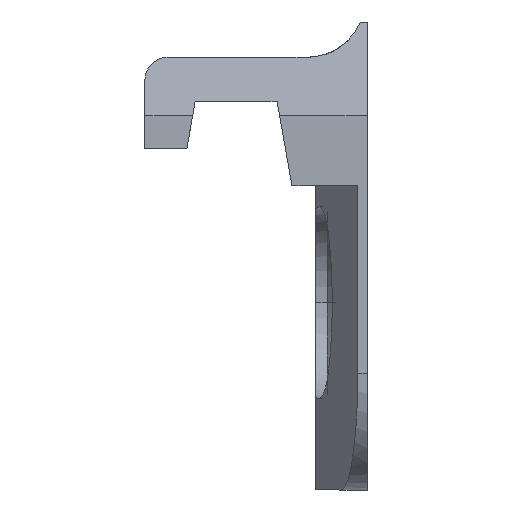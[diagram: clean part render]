
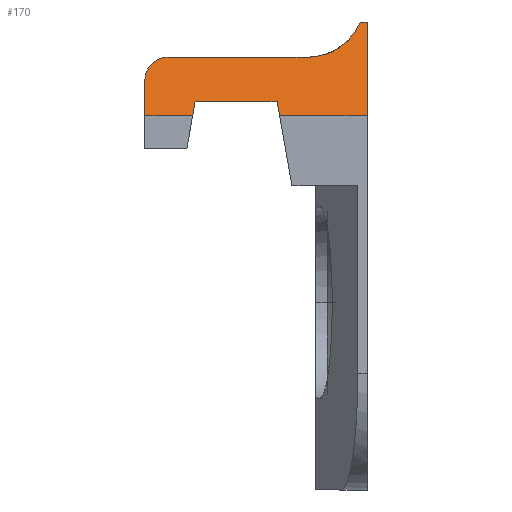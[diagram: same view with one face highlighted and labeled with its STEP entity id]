
A CAD part, front view. The second image highlights one B-rep face of the part: STEP entity #170.
In plain terms, the highlighted planar face has unit normal (0, -0.574, 0.819).
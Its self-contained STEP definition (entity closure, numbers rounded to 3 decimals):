
#170 = ADVANCED_FACE ( 'NONE', ( #1354 ), #579, .F. ) ;
#254 = EDGE_CURVE ( 'NONE', #2186, #2180, #1235, .T. ) ;
#260 = EDGE_CURVE ( 'NONE', #2168, #2178, #1238, .T. ) ;
#264 = EDGE_CURVE ( 'NONE', #2178, #2176, #1232, .T. ) ;
#266 = EDGE_CURVE ( 'NONE', #2180, #2174, #1230, .T. ) ;
#269 = EDGE_CURVE ( 'NONE', #2174, #2172, #2109, .T. ) ;
#272 = EDGE_CURVE ( 'NONE', #2172, #2170, #1203, .T. ) ;
#275 = EDGE_CURVE ( 'NONE', #2170, #2168, #2108, .T. ) ;
#278 = EDGE_CURVE ( 'NONE', #2162, #2159, #1189, .T. ) ;
#280 = EDGE_CURVE ( 'NONE', #2176, #2164, #1182, .T. ) ;
#286 = EDGE_CURVE ( 'NONE', #2164, #2162, #1193, .T. ) ;
#302 = EDGE_CURVE ( 'NONE', #2159, #2186, #1145, .T. ) ;
#434 = AXIS2_PLACEMENT_3D ( 'NONE', #578, #581, #582 ) ;
#578 = CARTESIAN_POINT ( 'NONE',  ( -8.5, -31.5, 8. ) ) ;
#579 = PLANE ( 'NONE',  #434 ) ;
#581 = DIRECTION ( 'NONE',  ( 0., 0.574, -0.819 ) ) ;
#582 = DIRECTION ( 'NONE',  ( 0., 0.819, 0.574 ) ) ;
#753 = CARTESIAN_POINT ( 'NONE',  ( 0., 213.285, 179.4 ) ) ;
#754 = DIRECTION ( 'NONE',  ( 0., 0.819, 0.574 ) ) ;
#769 = CARTESIAN_POINT ( 'NONE',  ( -9.5, 210.748, 177.624 ) ) ;
#770 = DIRECTION ( 'NONE',  ( 0., -0.819, -0.574 ) ) ;
#775 = CARTESIAN_POINT ( 'NONE',  ( -8.5, -31.5, 8. ) ) ;
#777 = CARTESIAN_POINT ( 'NONE',  ( -0.3, -25.787, 12. ) ) ;
#778 = DIRECTION ( 'NONE',  ( 1., 0., 0. ) ) ;
#782 = DIRECTION ( 'NONE',  ( -1., 0., 0. ) ) ;
#785 = CARTESIAN_POINT ( 'NONE',  ( -0.3, -25.787, 12. ) ) ;
#788 = CARTESIAN_POINT ( 'NONE',  ( -8.5, -27.93, 10.5 ) ) ;
#789 = CARTESIAN_POINT ( 'NONE',  ( -0.679, -27.124, 11.064 ) ) ;
#790 = CARTESIAN_POINT ( 'NONE',  ( -1.515, -27.93, 10.5 ) ) ;
#791 = CARTESIAN_POINT ( 'NONE',  ( -2.525, -27.93, 10.5 ) ) ;
#797 = DIRECTION ( 'NONE',  ( -1., 0., 0. ) ) ;
#800 = CARTESIAN_POINT ( 'NONE',  ( -8.5, -27.93, 10.5 ) ) ;
#803 = CARTESIAN_POINT ( 'NONE',  ( -3.85, -30.643, 8.6 ) ) ;
#804 = CARTESIAN_POINT ( 'NONE',  ( -9.086, -27.93, 10.5 ) ) ;
#805 = CARTESIAN_POINT ( 'NONE',  ( -9.5, -28.521, 10.086 ) ) ;
#806 = CARTESIAN_POINT ( 'NONE',  ( -9.5, -29.358, 9.5 ) ) ;
#811 = CARTESIAN_POINT ( 'NONE',  ( -33.253, 207.508, 175.355 ) ) ;
#812 = DIRECTION ( 'NONE',  ( 0.101, -0.815, -0.571 ) ) ;
#815 = CARTESIAN_POINT ( 'NONE',  ( 22.267, 209.234, 176.564 ) ) ;
#816 = DIRECTION ( 'NONE',  ( 0.101, 0.815, 0.571 ) ) ;
#828 = DIRECTION ( 'NONE',  ( 1., 0., 0. ) ) ;
#853 = CARTESIAN_POINT ( 'NONE',  ( -8.5, -31.5, 8. ) ) ;
#865 = DIRECTION ( 'NONE',  ( 1., 0., 0. ) ) ;
#922 = CARTESIAN_POINT ( 'NONE',  ( -7.35, -30.643, 8.6 ) ) ;
#927 = CARTESIAN_POINT ( 'NONE',  ( -3.744, -31.5, 8. ) ) ;
#935 = CARTESIAN_POINT ( 'NONE',  ( -3.85, -30.643, 8.6 ) ) ;
#940 = CARTESIAN_POINT ( 'NONE',  ( -9.5, -29.358, 9.5 ) ) ;
#942 = CARTESIAN_POINT ( 'NONE',  ( -8.5, -27.93, 10.5 ) ) ;
#944 = CARTESIAN_POINT ( 'NONE',  ( -2.525, -27.93, 10.5 ) ) ;
#946 = CARTESIAN_POINT ( 'NONE',  ( -0.3, -25.787, 12. ) ) ;
#948 = CARTESIAN_POINT ( 'NONE',  ( -7.456, -31.5, 8. ) ) ;
#950 = CARTESIAN_POINT ( 'NONE',  ( -9.5, -31.5, 8. ) ) ;
#952 = CARTESIAN_POINT ( 'NONE',  ( 0., -25.787, 12. ) ) ;
#958 = CARTESIAN_POINT ( 'NONE',  ( 0., -31.5, 8. ) ) ;
#1138 = VECTOR ( 'NONE', #865, 1000. ) ;
#1145 = LINE ( 'NONE', #853, #1138 ) ;
#1168 = VECTOR ( 'NONE', #828, 1000. ) ;
#1181 = VECTOR ( 'NONE', #816, 1000. ) ;
#1182 = LINE ( 'NONE', #815, #1181 ) ;
#1188 = VECTOR ( 'NONE', #812, 1000. ) ;
#1189 = LINE ( 'NONE', #811, #1188 ) ;
#1193 = LINE ( 'NONE', #803, #1168 ) ;
#1198 = VECTOR ( 'NONE', #797, 1000. ) ;
#1203 = LINE ( 'NONE', #788, #1198 ) ;
#1209 = VECTOR ( 'NONE', #782, 1000. ) ;
#1215 = VECTOR ( 'NONE', #778, 1000. ) ;
#1227 = VECTOR ( 'NONE', #770, 1000. ) ;
#1230 = LINE ( 'NONE', #777, #1209 ) ;
#1232 = LINE ( 'NONE', #775, #1215 ) ;
#1234 = VECTOR ( 'NONE', #754, 1000. ) ;
#1235 = LINE ( 'NONE', #753, #1234 ) ;
#1238 = LINE ( 'NONE', #769, #1227 ) ;
#1354 = FACE_OUTER_BOUND ( 'NONE', #1662, .T. ) ;
#1662 = EDGE_LOOP ( 'NONE', ( #1903, #1904, #1905, #1906, #1907, #1908, #1909, #1910, #1911, #1912, #1913 ) ) ;
#1903 = ORIENTED_EDGE ( 'NONE', *, *, #269, .T. ) ;
#1904 = ORIENTED_EDGE ( 'NONE', *, *, #272, .T. ) ;
#1905 = ORIENTED_EDGE ( 'NONE', *, *, #275, .T. ) ;
#1906 = ORIENTED_EDGE ( 'NONE', *, *, #260, .T. ) ;
#1907 = ORIENTED_EDGE ( 'NONE', *, *, #264, .T. ) ;
#1908 = ORIENTED_EDGE ( 'NONE', *, *, #280, .T. ) ;
#1909 = ORIENTED_EDGE ( 'NONE', *, *, #286, .T. ) ;
#1910 = ORIENTED_EDGE ( 'NONE', *, *, #278, .T. ) ;
#1911 = ORIENTED_EDGE ( 'NONE', *, *, #302, .T. ) ;
#1912 = ORIENTED_EDGE ( 'NONE', *, *, #254, .T. ) ;
#1913 = ORIENTED_EDGE ( 'NONE', *, *, #266, .T. ) ;
#2108 =( BOUNDED_CURVE ( )  B_SPLINE_CURVE ( 3, ( #800, #804, #805, #806 ),
 .UNSPECIFIED., .F., .T. ) 
 B_SPLINE_CURVE_WITH_KNOTS ( ( 4, 4 ),
 ( 3.142, 4.712 ),
 .UNSPECIFIED. ) 
 CURVE ( )  GEOMETRIC_REPRESENTATION_ITEM ( )  RATIONAL_B_SPLINE_CURVE ( ( 1., 0.805, 0.805, 1. ) ) 
 REPRESENTATION_ITEM ( '' )  );
#2109 =( BOUNDED_CURVE ( )  B_SPLINE_CURVE ( 3, ( #785, #789, #790, #791 ),
 .UNSPECIFIED., .F., .T. ) 
 B_SPLINE_CURVE_WITH_KNOTS ( ( 4, 4 ),
 ( 5.097, 6.283 ),
 .UNSPECIFIED. ) 
 CURVE ( )  GEOMETRIC_REPRESENTATION_ITEM ( )  RATIONAL_B_SPLINE_CURVE ( ( 1., 0.886, 0.886, 1. ) ) 
 REPRESENTATION_ITEM ( '' )  );
#2159 = VERTEX_POINT ( 'NONE', #927 ) ;
#2162 = VERTEX_POINT ( 'NONE', #935 ) ;
#2164 = VERTEX_POINT ( 'NONE', #922 ) ;
#2168 = VERTEX_POINT ( 'NONE', #940 ) ;
#2170 = VERTEX_POINT ( 'NONE', #942 ) ;
#2172 = VERTEX_POINT ( 'NONE', #944 ) ;
#2174 = VERTEX_POINT ( 'NONE', #946 ) ;
#2176 = VERTEX_POINT ( 'NONE', #948 ) ;
#2178 = VERTEX_POINT ( 'NONE', #950 ) ;
#2180 = VERTEX_POINT ( 'NONE', #952 ) ;
#2186 = VERTEX_POINT ( 'NONE', #958 ) ;
